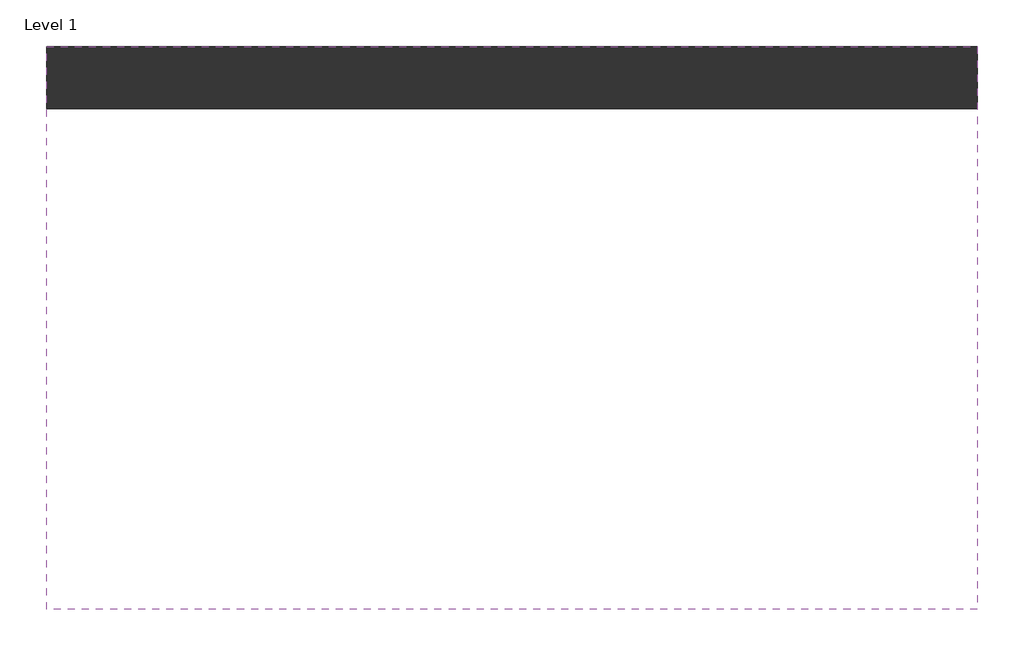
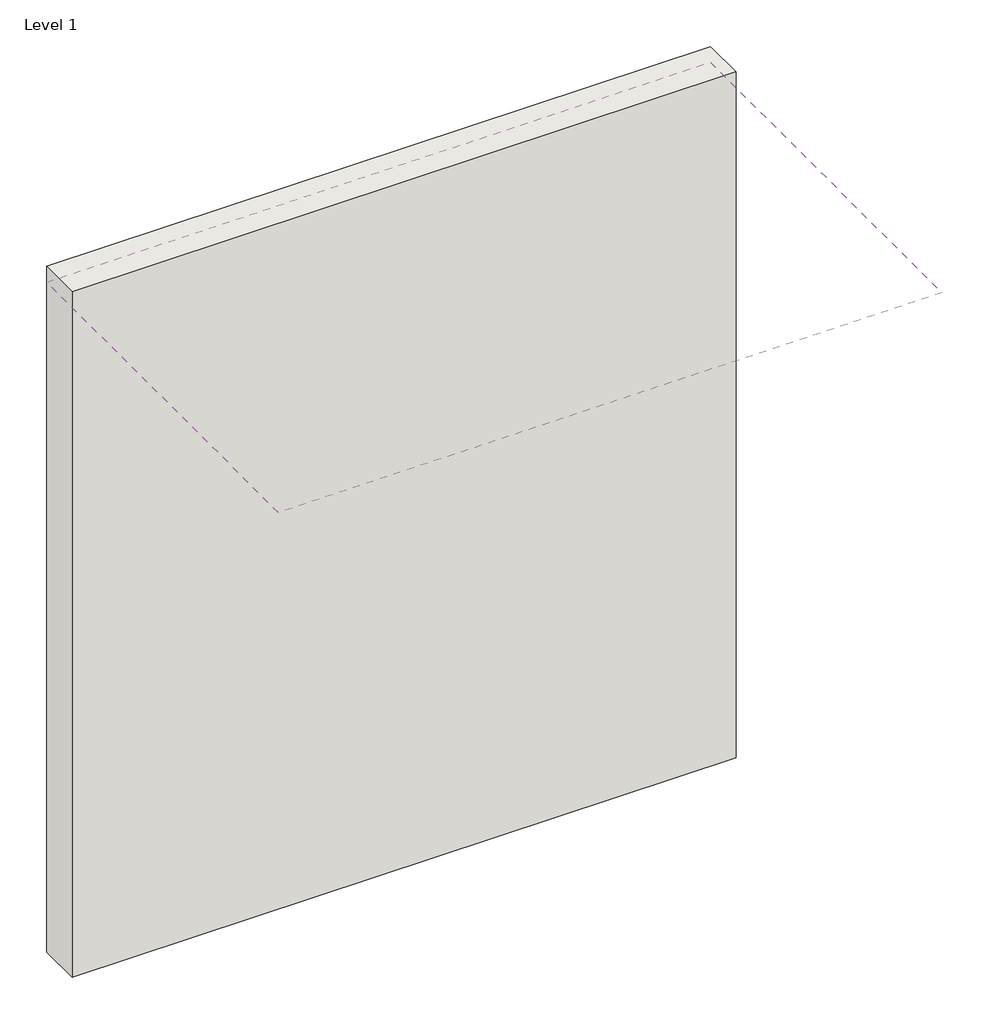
# One storey, incomplete: 1 covering, 1 wall.
"""IFC4 building model written with IfcOpenShell, lengths in millimetres."""

from ifc_helpers import new_model, si_unit, frame, origin, origin_with_axes, place, context, project, spatial, polyline, outline, extrude, element, save

model = new_model("IFC4")

# Units and contexts
model_context = context("Model", 3, world=origin())
ifc_project = project(units=[si_unit("LENGTHUNIT", "METRE", prefix="MILLI")], contexts=[model_context])

# Site, building, storey
site = spatial("IfcSite", under=ifc_project)
building = spatial("IfcBuilding", under=site)
storey = spatial("IfcBuildingStorey", under=building, Name="Level 1", Elevation=0.0)

# Covering
placement = place(None, origin())
element("IfcCovering", 1, ObjectType="2' x 4' ACT System", at=placement, inside=storey, context=model_context, shape_type="SweptSolid", body=[
    extrude(outline(polyline([(4119.1973575, 2115.5766815), (4119.1973575, 732.2741036), (1833.1973575, 732.2741036), (1833.1973575, 2115.5766815), (4119.1973575, 2115.5766815)])), frame((0.0, 0.0, 2438.4), z_axis=(0.0, 0.0, 1.0), x_axis=(1.0, 0.0, 0.0)), (0.0, 0.0, 1.0), 25.4),
])

# Wall
element("IfcWall", 2, ObjectType="Exterior - 6\" Generic", at=placement, inside=storey, context=model_context, shape_type="SweptSolid", body=[
    extrude(outline(polyline([(4119.1973575, 1963.1766815), (1833.1973575, 1963.1766815), (1833.1973575, 2115.5766815), (4119.1973575, 2115.5766815), (4119.1973575, 1963.1766815)])), origin_with_axes(), (0.0, 0.0, 1.0), 2495.55),
])

save(model, "model.ifc")
